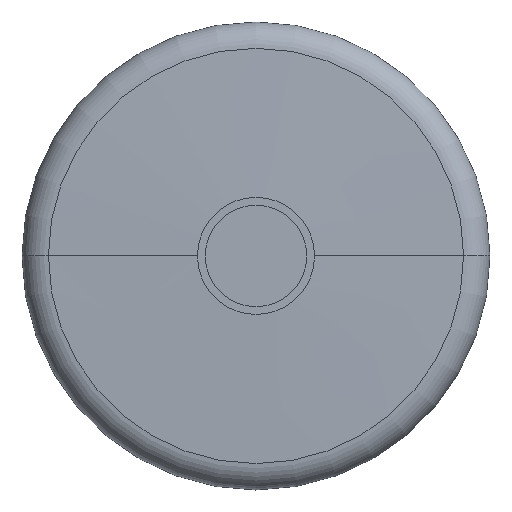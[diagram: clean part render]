
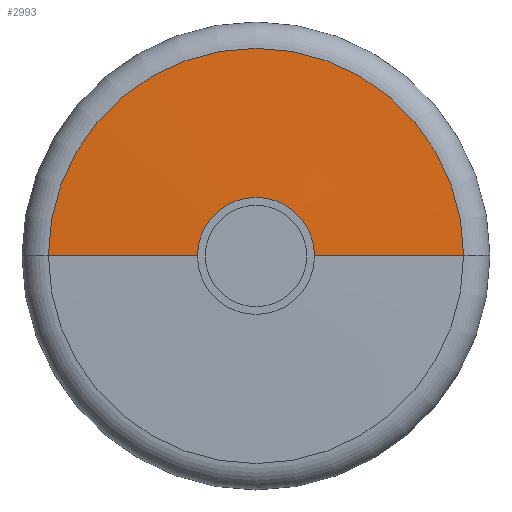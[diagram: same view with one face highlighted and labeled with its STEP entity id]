
A CAD part, top view. The second image highlights one B-rep face of the part: STEP entity #2993.
In plain terms, the highlighted conical face has half-angle 88.091 degrees and reference radius 30 mm.
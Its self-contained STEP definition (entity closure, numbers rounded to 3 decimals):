
#15 = CARTESIAN_POINT ( 'NONE',  ( 26.617, 0., 29.113 ) ) ;
#55 = DIRECTION ( 'NONE',  ( -0.999, 0., -0.033 ) ) ;
#58 = DIRECTION ( 'NONE',  ( 0.999, 0., -0.033 ) ) ;
#170 = AXIS2_PLACEMENT_3D ( 'NONE', #178, #2142, #454 ) ;
#178 = CARTESIAN_POINT ( 'NONE',  ( 0., 0., 29.113 ) ) ;
#246 = CARTESIAN_POINT ( 'NONE',  ( -26.617, 0., 29.113 ) ) ;
#330 = CARTESIAN_POINT ( 'NONE',  ( 7.5, 0., 29.75 ) ) ;
#369 = AXIS2_PLACEMENT_3D ( 'NONE', #2686, #442, #2703 ) ;
#442 = DIRECTION ( 'NONE',  ( 0., 0., -1. ) ) ;
#454 = DIRECTION ( 'NONE',  ( 1., 0., 0. ) ) ;
#460 = LINE ( 'NONE', #3155, #3347 ) ;
#469 = CIRCLE ( 'NONE', #1270, 7.5 ) ;
#680 = CONICAL_SURFACE ( 'NONE', #369, 30., 1.537 ) ;
#884 = CARTESIAN_POINT ( 'NONE',  ( -30., 0., 29. ) ) ;
#1077 = VERTEX_POINT ( 'NONE', #15 ) ;
#1129 = ORIENTED_EDGE ( 'NONE', *, *, #2816, .T. ) ;
#1219 = VERTEX_POINT ( 'NONE', #330 ) ;
#1237 = CARTESIAN_POINT ( 'NONE',  ( 0., 0., 29.75 ) ) ;
#1270 = AXIS2_PLACEMENT_3D ( 'NONE', #1237, #3192, #1522 ) ;
#1357 = CIRCLE ( 'NONE', #170, 26.617 ) ;
#1401 = EDGE_LOOP ( 'NONE', ( #1784, #1129, #1748, #3573 ) ) ;
#1522 = DIRECTION ( 'NONE',  ( -1., 0., 0. ) ) ;
#1632 = VECTOR ( 'NONE', #55, 1000. ) ;
#1748 = ORIENTED_EDGE ( 'NONE', *, *, #2052, .T. ) ;
#1784 = ORIENTED_EDGE ( 'NONE', *, *, #2402, .F. ) ;
#1786 = VERTEX_POINT ( 'NONE', #2855 ) ;
#2052 = EDGE_CURVE ( 'NONE', #1077, #3190, #1357, .T. ) ;
#2142 = DIRECTION ( 'NONE',  ( 0., 0., 1. ) ) ;
#2402 = EDGE_CURVE ( 'NONE', #1219, #1786, #469, .T. ) ;
#2526 = FACE_OUTER_BOUND ( 'NONE', #1401, .T. ) ;
#2686 = CARTESIAN_POINT ( 'NONE',  ( 0., 0., 29. ) ) ;
#2703 = DIRECTION ( 'NONE',  ( -1., 0., 0. ) ) ;
#2816 = EDGE_CURVE ( 'NONE', #1219, #1077, #460, .T. ) ;
#2855 = CARTESIAN_POINT ( 'NONE',  ( -7.5, 0., 29.75 ) ) ;
#2953 = LINE ( 'NONE', #884, #1632 ) ;
#2993 = ADVANCED_FACE ( 'NONE', ( #2526 ), #680, .T. ) ;
#3155 = CARTESIAN_POINT ( 'NONE',  ( 30., 0., 29. ) ) ;
#3190 = VERTEX_POINT ( 'NONE', #246 ) ;
#3192 = DIRECTION ( 'NONE',  ( 0., 0., 1. ) ) ;
#3347 = VECTOR ( 'NONE', #58, 1000. ) ;
#3366 = EDGE_CURVE ( 'NONE', #1786, #3190, #2953, .T. ) ;
#3573 = ORIENTED_EDGE ( 'NONE', *, *, #3366, .F. ) ;
